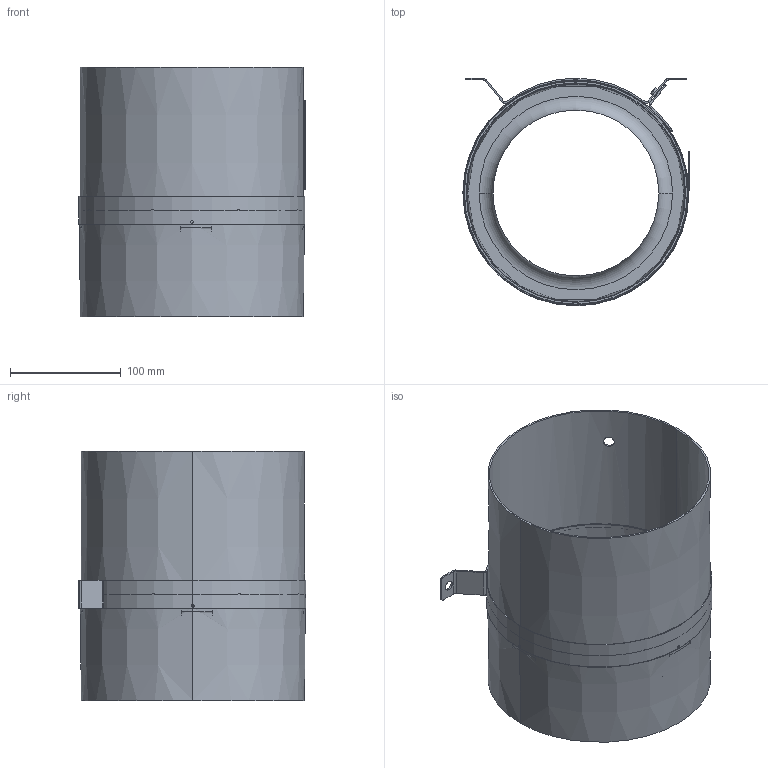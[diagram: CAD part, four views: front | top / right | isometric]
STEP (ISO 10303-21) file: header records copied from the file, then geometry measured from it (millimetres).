
FILE_DESCRIPTION (( 'STEP AP203' ), '1' );
FILE_NAME ('122239-00_EL200E2M01.STEP', '2013-10-07T08:37:59', ( '' ), ( '' ), 'SwSTEP 2.0', 'SolidWorks 2012', '' );
FILE_SCHEMA (( 'CONFIG_CONTROL_DESIGN' ));
Length unit declared in the file: millimetre
Products named in the file (1): 122239-00_EL200E2M01
Bounding box: 204.01 x 205.3 x 225 mm (x, y, z)
Surface area: 353924.4 mm2 (no closed solid volume)
Topology: 0 solids, 25 shells, 178 faces, 824 edges, 663 vertices
Faces by surface type: plane 98, cylinder 48, cone 21, torus 7, bspline 4
Entity records: 10763 total; most frequent: CARTESIAN_POINT 4484, DIRECTION 1162, ORIENTED_EDGE 1160, EDGE_CURVE 824, VERTEX_POINT 663, LINE 388, VECTOR 388, AXIS2_PLACEMENT_3D 387
